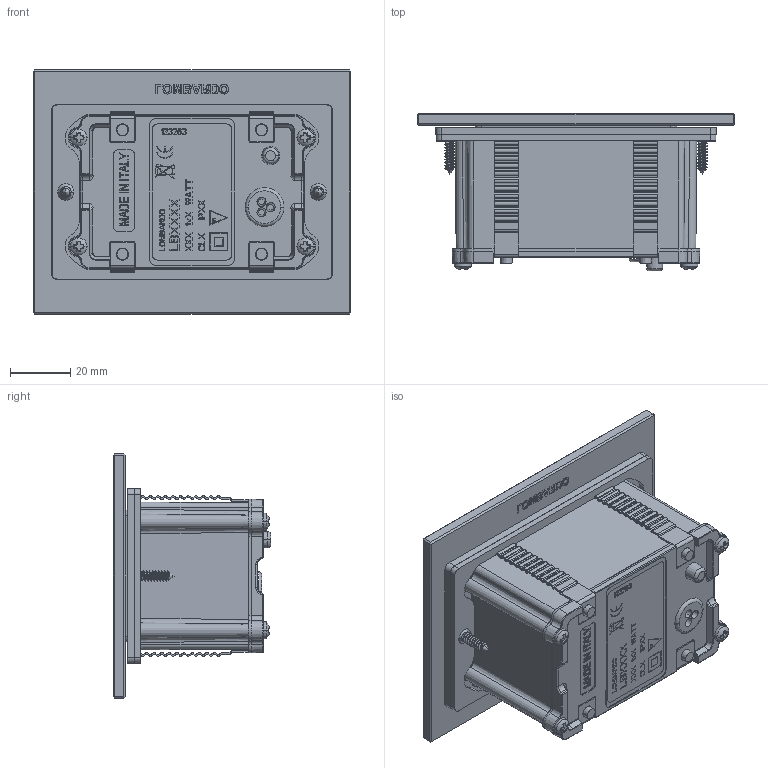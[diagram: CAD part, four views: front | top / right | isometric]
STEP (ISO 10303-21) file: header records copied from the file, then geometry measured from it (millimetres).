
FILE_DESCRIPTION((''),'2;1');
FILE_NAME('503-1LED_SW0001','2025-07-29T10:05:18',('Piccioli'),(''),'CREO PARAMETRIC BY PTC INC, 2025010','CREO PARAMETRIC BY PTC INC, 2025010','');
FILE_SCHEMA(('CONFIG_CONTROL_DESIGN'));
Products named in the file (1): 503-1LED_SW0001
Bounding box: 105 x 52.1 x 81 mm (x, y, z)
Surface area: 67526.8 mm2 (no closed solid volume)
Topology: 0 solids, 82 shells, 855 faces, 4324 edges, 3466 vertices
Faces by surface type: plane 379, cylinder 286, cone 90, torus 50, bspline 32, sphere 18
Entity records: 53629 total; most frequent: CARTESIAN_POINT 20594, DIRECTION 6512, ORIENTED_EDGE 6086, EDGE_CURVE 4310, VERTEX_POINT 3466, VECTOR 2762, LINE 2762, AXIS2_PLACEMENT_3D 1875
